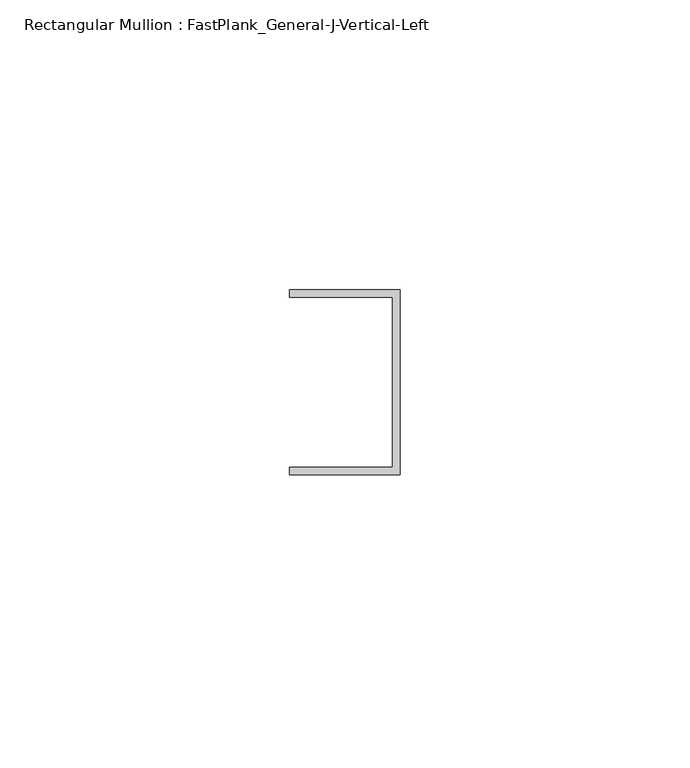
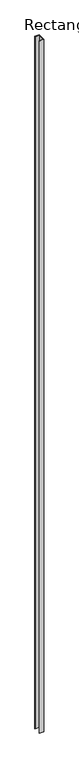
"""IFC4 building model written with IfcOpenShell, lengths in millimetres: member geometry, Rectangular Mullion : FastPlank_General-J-Vertical-Left."""

from ifc_helpers import new_model, si_unit, frame, origin, place, context, project, spatial, polyline, outline, extrude, source, transform, mapped, element, save


def rectangular_mullion_fastplank_general_j_vertical_left_2a4da334(model_context):
    return source(origin(), model_context, "Body", "SweptSolid", [
        extrude(outline(polyline([(0.0, 10.2620691), (0.0, -21.6412691), (-19.05, -21.6412691), (-19.05, -20.3412717), (-1.3000189, -20.3412717), (-1.3000189, 8.9620717), (-19.05, 8.9620717), (-19.05, 10.2620691), (0.0, 10.2620691)])), frame((0.0, 0.0, -3048.0), z_axis=(0.0, 0.0, 1.0), x_axis=(1.0, 0.0, 0.0)), (0.0, 0.0, 1.0), 3048.0),
    ])


if __name__ == "__main__":
    model = new_model("IFC4")
    model_context = context("Model", 3, world=origin())
    ifc_project = project(units=[si_unit("LENGTHUNIT", "METRE", prefix="MILLI")], contexts=[model_context])
    site = spatial("IfcSite", under=ifc_project)
    building = spatial("IfcBuilding", under=site)
    placement = place(None, origin())
    rectangular_mullion_fastplank_general_j_vertical_left_shape = rectangular_mullion_fastplank_general_j_vertical_left_2a4da334(model_context)
    element("IfcMember", 1, ObjectType="Rectangular Mullion : FastPlank_General-J-Vertical-Left", at=placement, inside=building, context=model_context, shape_type="MappedRepresentation", body=[
        mapped(rectangular_mullion_fastplank_general_j_vertical_left_shape, transform((0.0, 0.0, 0.0), x_axis=(1.0, 0.0, 0.0), y_axis=(0.0, 1.0, 0.0), z_axis=(0.0, 0.0, 1.0))),
    ])
    save(model, "model.ifc")
